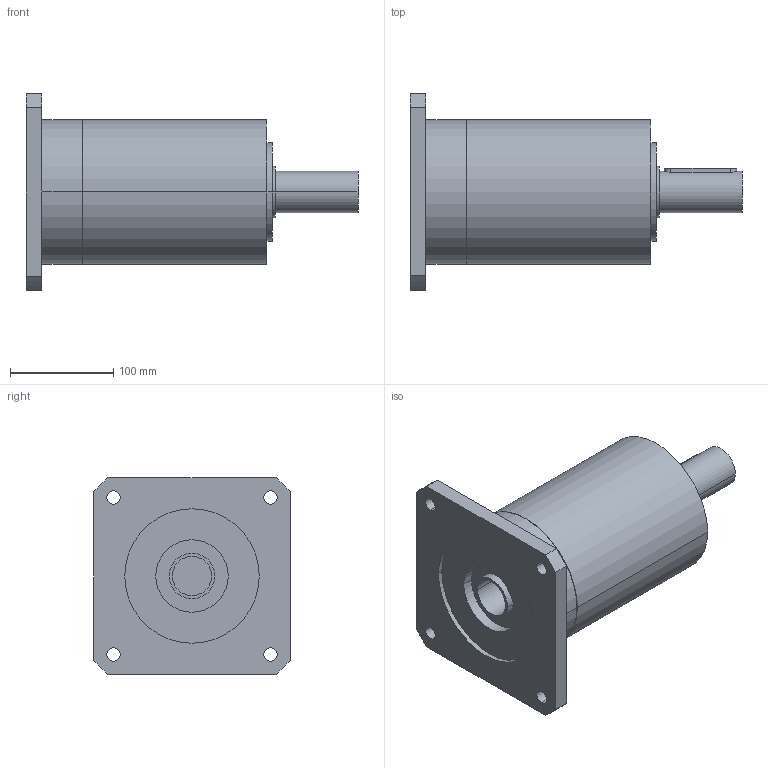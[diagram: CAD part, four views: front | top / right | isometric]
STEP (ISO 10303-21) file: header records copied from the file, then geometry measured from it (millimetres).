
FILE_DESCRIPTION(('CoCreate Modeling STEP Export'),'2;1');
FILE_NAME('GPR150_ig-9-12-16-20-28-35_40_B14_38_P13.stp','2014-08-19T17:04:37',(''),(''),'CoCreate Modeling STEP processor for AP214 (Solid Model)','CoCreate Modeling 16.00C 25-Feb-2009 (C) Parametric Technology GmbH','');
FILE_SCHEMA(('AUTOMOTIVE_DESIGN { 1 0 10303 214 1 1 1 1 }'));
Length unit declared in the file: millimetre
Products named in the file (2): GPR150_ig-9-12-16-20-28-35_40_B14_38_P13
Assembly tree (1 placements, depth 2):
  GPR150_ig-9-12-16-20-28-35_40_B14_38_P13
    GPR150_ig-9-12-16-20-28-35_40_B14_38_P13
Bounding box: 321 x 190 x 190 mm (x, y, z)
Volume: 3839242 mm3; surface area: 212042.7 mm2
Topology: 1 solids, 1 shells, 70 faces, 189 edges, 133 vertices
Faces by surface type: cylinder 42, plane 22, cone 6
Entity records: 1968 total; most frequent: CARTESIAN_POINT 385, ORIENTED_EDGE 374, DIRECTION 262, EDGE_CURVE 187, VERTEX_POINT 133, AXIS2_PLACEMENT_3D 98, EDGE_LOOP 92, FACE_OUTER_BOUND 70
